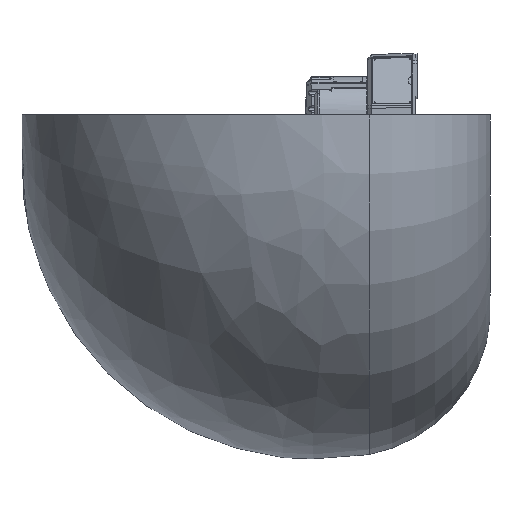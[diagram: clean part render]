
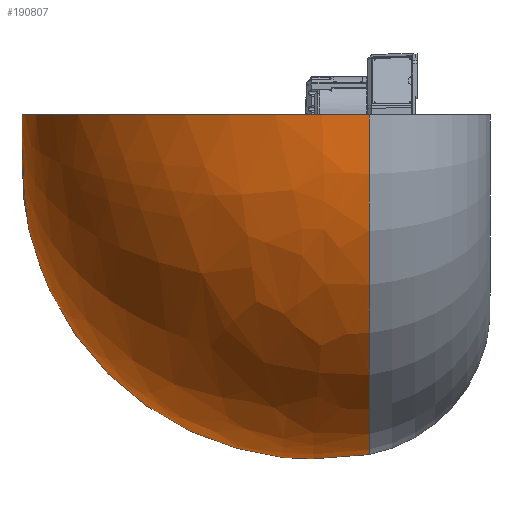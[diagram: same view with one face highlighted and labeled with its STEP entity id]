
A CAD part, left-side view. The second image highlights one B-rep face of the part: STEP entity #190807.
In plain terms, the highlighted free-form (B-spline) face has degree [3, 3] with [7, 4] control points.
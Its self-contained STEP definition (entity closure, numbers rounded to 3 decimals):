
#190654=CARTESIAN_POINT('',(-300.,600.,0.));
#190655=DIRECTION('',(0.,0.,-1.));
#190656=DIRECTION('',(-0.983,-0.182,0.));
#190657=AXIS2_PLACEMENT_3D('',#190654,#190655,#190656);
#190659=CARTESIAN_POINT('',(300.,600.,0.));
#190660=DIRECTION('',(0.,0.,1.));
#190661=DIRECTION('',(0.983,-0.182,0.));
#190662=AXIS2_PLACEMENT_3D('',#190659,#190660,#190661);
#190704=CARTESIAN_POINT('',(0.,284.804,0.));
#190705=DIRECTION('',(0.,-1.,0.));
#190706=DIRECTION('',(-1.,0.,0.));
#190707=AXIS2_PLACEMENT_3D('',#190704,#190705,#190706);
#190724=CARTESIAN_POINT('',(-2005.67,284.804,
0.));
#190725=CARTESIAN_POINT('',(0.,2308.408,
0.));
#190726=VERTEX_POINT('',#190724);
#190727=VERTEX_POINT('',#190725);
#190736=CARTESIAN_POINT('',(2005.67,284.804,
0.));
#190737=VERTEX_POINT('',#190736);
#190772=CARTESIAN_POINT('',(0.,2308.408,
0.));
#190773=CARTESIAN_POINT('',(-1345.41,2545.132,
84.646));
#190774=CARTESIAN_POINT('',(-2288.13,1554.63,
143.957));
#190775=CARTESIAN_POINT('',(-1988.325,219.305,
125.095));
#190776=CARTESIAN_POINT('',(0.,2308.408,
0.));
#190777=CARTESIAN_POINT('',(-1397.501,2545.132,
-743.318));
#190778=CARTESIAN_POINT('',(-2376.721,1554.63,
-1264.155));
#190779=CARTESIAN_POINT('',(-2065.308,219.305,
-1098.517));
#190780=CARTESIAN_POINT('',(0.,2308.408,
0.));
#190781=CARTESIAN_POINT('',(-829.601,2545.132,
-1348.07));
#190782=CARTESIAN_POINT('',(-1410.896,1554.63,
-2292.654));
#190783=CARTESIAN_POINT('',(-1226.031,219.305,
-1992.256));
#190784=CARTESIAN_POINT('',(0.,2308.408,0.));
#190785=CARTESIAN_POINT('',(0.,2545.132,
-1348.07));
#190786=CARTESIAN_POINT('',(0.,1554.63,
-2292.654));
#190787=CARTESIAN_POINT('',(0.,219.305,
-1992.256));
#190788=CARTESIAN_POINT('',(0.,2308.408,
0.));
#190789=CARTESIAN_POINT('',(829.601,2545.132,
-1348.07));
#190790=CARTESIAN_POINT('',(1410.896,1554.63,
-2292.654));
#190791=CARTESIAN_POINT('',(1226.031,219.305,
-1992.256));
#190792=CARTESIAN_POINT('',(0.,2308.408,
0.));
#190793=CARTESIAN_POINT('',(1397.501,2545.132,
-743.318));
#190794=CARTESIAN_POINT('',(2376.721,1554.63,
-1264.155));
#190795=CARTESIAN_POINT('',(2065.308,219.305,
-1098.517));
#190796=CARTESIAN_POINT('',(0.,2308.408,
0.));
#190797=CARTESIAN_POINT('',(1345.41,2545.132,
84.646));
#190798=CARTESIAN_POINT('',(2288.13,1554.63,
143.957));
#190799=CARTESIAN_POINT('',(1988.325,219.305,
125.095));
#190800=(BOUNDED_SURFACE()B_SPLINE_SURFACE(3,3,((#190772,#190773,#190774,
#190775),(#190776,#190777,#190778,#190779),(#190780,#190781,#190782,#190783),(
#190784,#190785,#190786,#190787),(#190788,#190789,#190790,#190791),(#190792,
#190793,#190794,#190795),(#190796,#190797,#190798,#190799)),.UNSPECIFIED.,.F.,
.F.,.F.)B_SPLINE_SURFACE_WITH_KNOTS((4,3,4),(4,4),(0.,1.,2.),(0.,1.),
.UNSPECIFIED.)GEOMETRIC_REPRESENTATION_ITEM()RATIONAL_B_SPLINE_SURFACE(((
1.527,1.074,1.074,1.527),(
1.206,0.848,0.848,1.206),(
1.206,0.848,0.848,1.206),(
1.527,1.074,1.074,1.527),(
1.206,0.848,0.848,1.206),(
1.206,0.848,0.848,1.206),(
1.527,1.074,1.074,1.527)))REPRESENTATION_ITEM('')SURFACE());
#190801=ORIENTED_EDGE('',*,*,#190749,.F.);
#190803=ORIENTED_EDGE('',*,*,#190802,.T.);
#190804=ORIENTED_EDGE('',*,*,#190751,.T.);
#190805=EDGE_LOOP('',(#190801,#190803,#190804));
#190806=FACE_OUTER_BOUND('',#190805,.F.);
#190807=ADVANCED_FACE('',(#190806),#190800,.T.);
#190658=CIRCLE('',#190657,1734.548);
#190663=CIRCLE('',#190662,1734.548);
#190708=CIRCLE('',#190707,2005.67);
#190749=EDGE_CURVE('',#190726,#190727,#190658,.T.);
#190751=EDGE_CURVE('',#190737,#190727,#190663,.T.);
#190802=EDGE_CURVE('',#190726,#190737,#190708,.T.);
